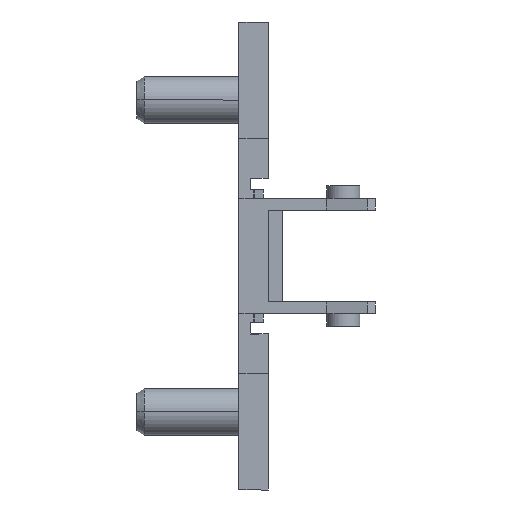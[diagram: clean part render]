
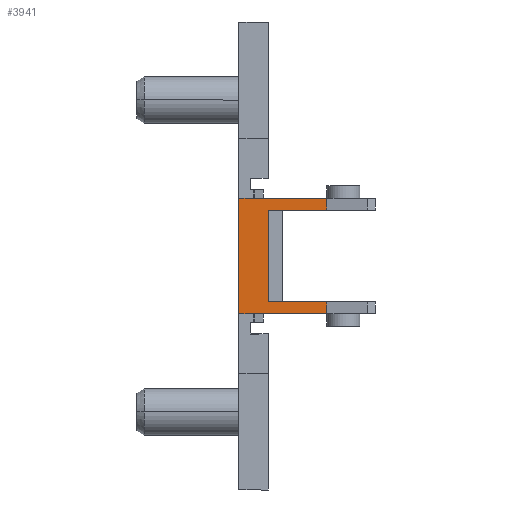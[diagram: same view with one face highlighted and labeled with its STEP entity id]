
A CAD part, front view. The second image highlights one B-rep face of the part: STEP entity #3941.
In plain terms, the highlighted planar face has unit normal (0, -1, 0).
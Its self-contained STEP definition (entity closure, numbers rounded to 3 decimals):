
#47 = VERTEX_POINT ( 'NONE', #1806 ) ;
#183 = CARTESIAN_POINT ( 'NONE',  ( 5.523, -25.55, 4.7 ) ) ;
#336 = VERTEX_POINT ( 'NONE', #895 ) ;
#441 = VECTOR ( 'NONE', #2157, 1000. ) ;
#574 = CARTESIAN_POINT ( 'NONE',  ( 10.5, -25.55, 4.7 ) ) ;
#590 = CARTESIAN_POINT ( 'NONE',  ( -0.5, -25.55, -4.7 ) ) ;
#680 = VERTEX_POINT ( 'NONE', #4407 ) ;
#754 = VERTEX_POINT ( 'NONE', #590 ) ;
#866 = PLANE ( 'NONE',  #4105 ) ;
#895 = CARTESIAN_POINT ( 'NONE',  ( 5.523, -25.55, -4.7 ) ) ;
#1024 = EDGE_CURVE ( 'NONE', #4006, #4406, #1227, .T. ) ;
#1108 = ORIENTED_EDGE ( 'NONE', *, *, #1956, .T. ) ;
#1124 = EDGE_CURVE ( 'NONE', #4006, #680, #2485, .T. ) ;
#1158 = LINE ( 'NONE', #3056, #2955 ) ;
#1174 = LINE ( 'NONE', #3531, #1949 ) ;
#1227 = LINE ( 'NONE', #4380, #4252 ) ;
#1333 = EDGE_CURVE ( 'NONE', #336, #47, #2694, .T. ) ;
#1336 = DIRECTION ( 'NONE',  ( 1., 0., 0. ) ) ;
#1362 = ORIENTED_EDGE ( 'NONE', *, *, #2349, .T. ) ;
#1402 = CARTESIAN_POINT ( 'NONE',  ( 5.523, -25.55, 67.733 ) ) ;
#1541 = ORIENTED_EDGE ( 'NONE', *, *, #2993, .F. ) ;
#1701 = ORIENTED_EDGE ( 'NONE', *, *, #1124, .T. ) ;
#1753 = DIRECTION ( 'NONE',  ( 0., 0., -1. ) ) ;
#1758 = ORIENTED_EDGE ( 'NONE', *, *, #2326, .F. ) ;
#1806 = CARTESIAN_POINT ( 'NONE',  ( 5.523, -25.55, -5.9 ) ) ;
#1945 = DIRECTION ( 'NONE',  ( 0., -1., 0. ) ) ;
#1949 = VECTOR ( 'NONE', #3858, 1000. ) ;
#1956 = EDGE_CURVE ( 'NONE', #4133, #47, #2690, .T. ) ;
#2142 = LINE ( 'NONE', #4467, #2683 ) ;
#2157 = DIRECTION ( 'NONE',  ( 1., 0., 0. ) ) ;
#2211 = VECTOR ( 'NONE', #3313, 1000. ) ;
#2326 = EDGE_CURVE ( 'NONE', #2794, #754, #2142, .T. ) ;
#2349 = EDGE_CURVE ( 'NONE', #680, #4133, #1158, .T. ) ;
#2352 = DIRECTION ( 'NONE',  ( 0., 0., -1. ) ) ;
#2485 = LINE ( 'NONE', #3327, #2211 ) ;
#2613 = DIRECTION ( 'NONE',  ( 0., 0., -1. ) ) ;
#2683 = VECTOR ( 'NONE', #2352, 1000. ) ;
#2690 = LINE ( 'NONE', #3218, #441 ) ;
#2694 = LINE ( 'NONE', #1402, #4538 ) ;
#2794 = VERTEX_POINT ( 'NONE', #3262 ) ;
#2955 = VECTOR ( 'NONE', #4537, 1000. ) ;
#2993 = EDGE_CURVE ( 'NONE', #754, #336, #1174, .T. ) ;
#3056 = CARTESIAN_POINT ( 'NONE',  ( -3.5, -25.55, 15.37 ) ) ;
#3213 = LINE ( 'NONE', #574, #3274 ) ;
#3218 = CARTESIAN_POINT ( 'NONE',  ( -2., -25.55, -5.9 ) ) ;
#3262 = CARTESIAN_POINT ( 'NONE',  ( -0.5, -25.55, 4.7 ) ) ;
#3274 = VECTOR ( 'NONE', #1336, 1000. ) ;
#3313 = DIRECTION ( 'NONE',  ( -1., 0., 0. ) ) ;
#3315 = EDGE_LOOP ( 'NONE', ( #1758, #3848, #3440, #1701, #1362, #1108, #3488, #1541 ) ) ;
#3327 = CARTESIAN_POINT ( 'NONE',  ( 10.5, -25.55, 5.9 ) ) ;
#3440 = ORIENTED_EDGE ( 'NONE', *, *, #1024, .F. ) ;
#3465 = CARTESIAN_POINT ( 'NONE',  ( 5.523, -25.55, 5.9 ) ) ;
#3473 = CARTESIAN_POINT ( 'NONE',  ( -3.5, -25.55, -5.9 ) ) ;
#3488 = ORIENTED_EDGE ( 'NONE', *, *, #1333, .F. ) ;
#3531 = CARTESIAN_POINT ( 'NONE',  ( 10.5, -25.55, -4.7 ) ) ;
#3617 = FACE_OUTER_BOUND ( 'NONE', #3315, .T. ) ;
#3848 = ORIENTED_EDGE ( 'NONE', *, *, #3887, .T. ) ;
#3858 = DIRECTION ( 'NONE',  ( 1., 0., 0. ) ) ;
#3887 = EDGE_CURVE ( 'NONE', #2794, #4406, #3213, .T. ) ;
#3941 = ADVANCED_FACE ( 'NONE', ( #3617 ), #866, .T. ) ;
#4006 = VERTEX_POINT ( 'NONE', #3465 ) ;
#4105 = AXIS2_PLACEMENT_3D ( 'NONE', #4330, #1945, #4366 ) ;
#4133 = VERTEX_POINT ( 'NONE', #3473 ) ;
#4252 = VECTOR ( 'NONE', #2613, 1000. ) ;
#4330 = CARTESIAN_POINT ( 'NONE',  ( 10.5, -25.55, -5.9 ) ) ;
#4366 = DIRECTION ( 'NONE',  ( -1., 0., 0. ) ) ;
#4380 = CARTESIAN_POINT ( 'NONE',  ( 5.523, -25.55, 67.733 ) ) ;
#4406 = VERTEX_POINT ( 'NONE', #183 ) ;
#4407 = CARTESIAN_POINT ( 'NONE',  ( -3.5, -25.55, 5.9 ) ) ;
#4467 = CARTESIAN_POINT ( 'NONE',  ( -0.5, -25.55, -5.9 ) ) ;
#4537 = DIRECTION ( 'NONE',  ( 0., 0., -1. ) ) ;
#4538 = VECTOR ( 'NONE', #1753, 1000. ) ;
